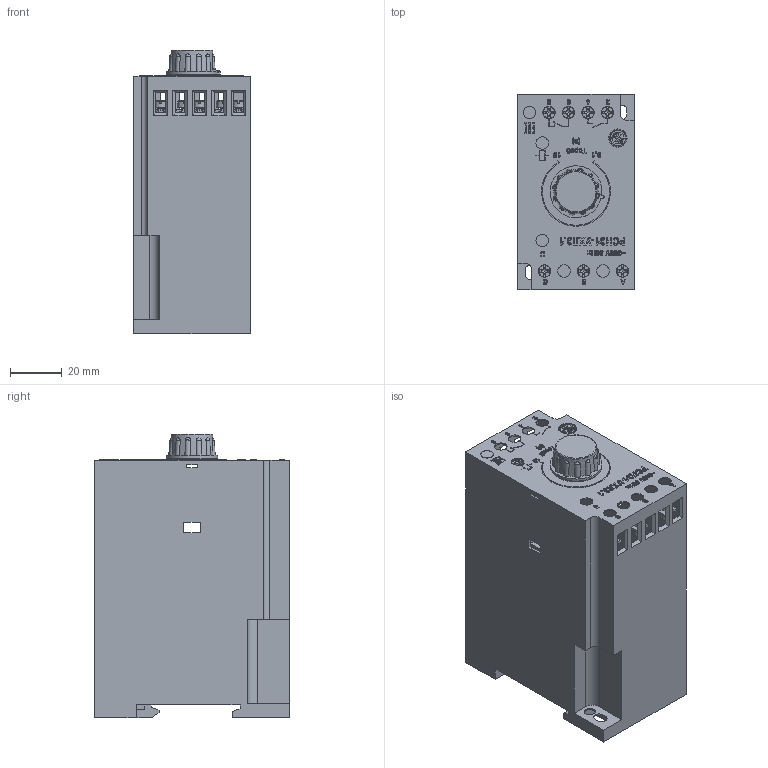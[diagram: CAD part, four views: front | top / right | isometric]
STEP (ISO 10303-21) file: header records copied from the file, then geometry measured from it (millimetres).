
FILE_DESCRIPTION(('STEP AP214'), '1');
FILE_NAME('ﾐﾑﾍ31 380ﾂ', '2025-06-18T14:09:16', (''), (''), 'ASCON STEP Converter 1.6', 'ASCON Math Kernel', '');
FILE_SCHEMA(('AUTOMOTIVE_DESIGN { 1 0 10303 214 3 1 1}'));
Length unit declared in the file: millimetre
Bounding box: 45 x 75 x 109.2 mm (x, y, z)
Volume: 31768.4 mm3; surface area: 62439.5 mm2
Topology: 15 solids, 15 shells, 2996 faces, 8195 edges, 5318 vertices
Faces by surface type: cylinder 1559, plane 1187, cone 115, bspline 99, torus 36
Full cylindrical faces by diameter (mm): 2.3 x7, 3 x7, 4.2 x2, 4.8 x12, 5.6 x1, 8.05 x1, 18.8 x1
Entity records: 132154 total; most frequent: CARTESIAN_POINT 30822, DIRECTION 16521, ORIENTED_EDGE 16272, EDGE_CURVE 8136, AXIS2_PLACEMENT_3D 6139, VERTEX_POINT 5318, LINE 4243, VECTOR 4243
